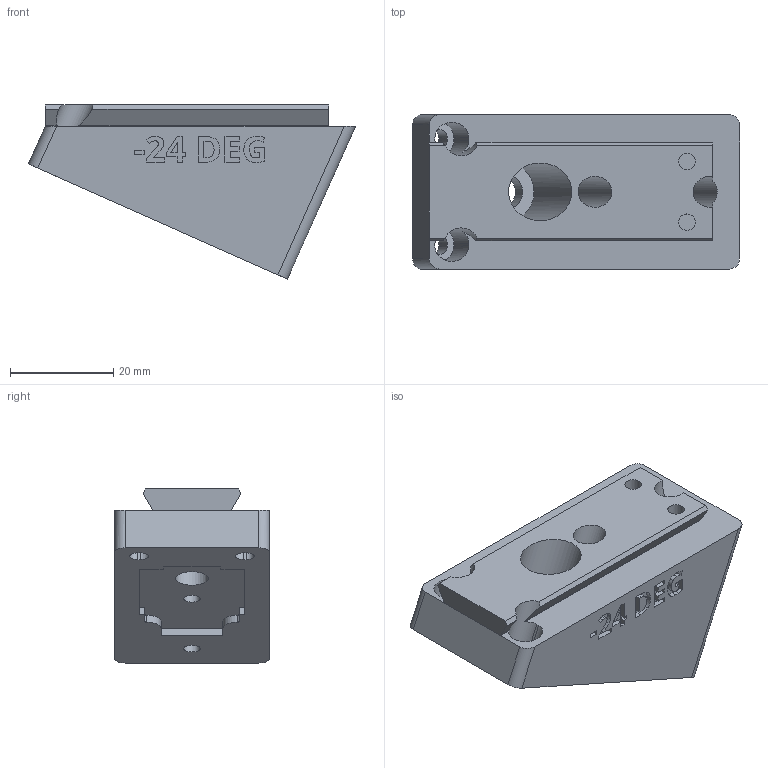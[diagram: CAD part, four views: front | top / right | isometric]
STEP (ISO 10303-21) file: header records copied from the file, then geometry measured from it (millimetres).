
FILE_DESCRIPTION(/* description */ ('STEP AP242 Edition 2','CAx-IF Rec.Pracs.---Representation and Presentation of Product Manufacturing Information (PMI)---4.0---2014-10-13','CAx-IF Rec.Pracs.---3D Tessellated Geometry---0.4---2014-09-14','2;1','CAx-IF Rec.Pracs.---User Defined Attributes---1.5---2016-08-15'),/* implementation_level */ '2;1');
FILE_NAME(/* name */ 'Camera Wedges - CAMERA MOUNTING WEDGE, NEG, -24 DEG',/* time_stamp */ '2026-08-11T00:07:13Z',/* author */ (''),/* organization */ (''),/* preprocessor_version */ 'ST-DEVELOPER v20',/* originating_system */ 'ONSHAPE BY PTC INC, 1.219',/* authorisation */ ' ');
FILE_SCHEMA (('AP242_MANAGED_MODEL_BASED_3D_ENGINEERING_MIM_LF { 1 0 10303 442 3 1 4 }'));
Length unit declared in the file: metre
Products named in the file (1): CAMERA MOUNTING WEDGE, NEG, -24 DEG
Bounding box: 63.46 x 30 x 33.79 mm (x, y, z)
Volume: 32606.4 mm3; surface area: 9863 mm2
Topology: 1 solids, 1 shells, 272 faces, 745 edges, 496 vertices
Faces by surface type: plane 170, cylinder 58, bspline 44
Full cylindrical faces by diameter (mm): 3.2 x4, 6 x2, 6.4 x1, 11.2 x1
Entity records: 8733 total; most frequent: CARTESIAN_POINT 1988, ORIENTED_EDGE 1472, DIRECTION 1237, EDGE_CURVE 736, LINE 517, VECTOR 517, VERTEX_POINT 495, AXIS2_PLACEMENT_3D 360
